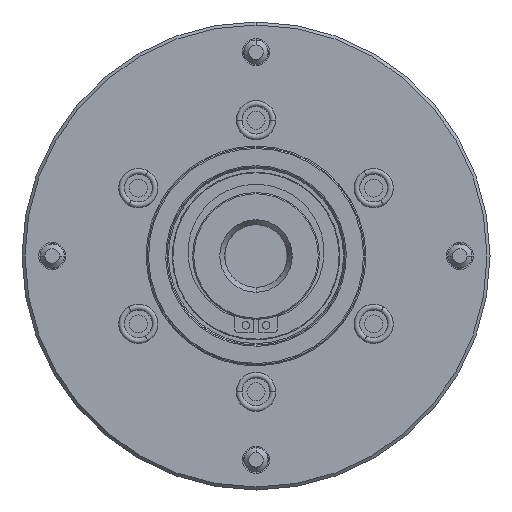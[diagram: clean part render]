
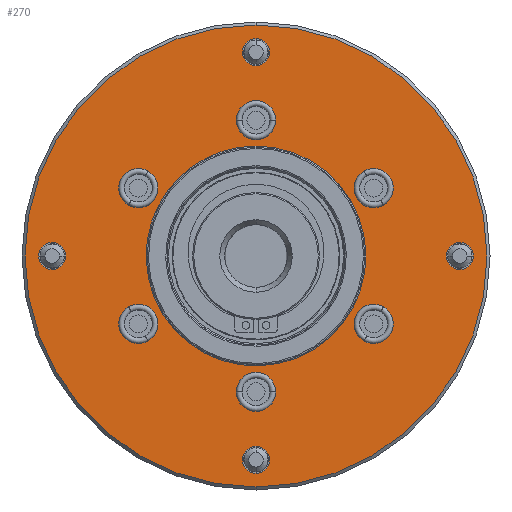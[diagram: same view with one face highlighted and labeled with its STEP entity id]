
A CAD part, front view. The second image highlights one B-rep face of the part: STEP entity #270.
In plain terms, the highlighted planar face has unit normal (0, -1, 0).
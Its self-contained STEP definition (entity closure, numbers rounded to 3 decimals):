
#16=CARTESIAN_POINT('',(0.0,2.5,36.4));
#17=VERTEX_POINT('',#16);
#18=CARTESIAN_POINT('',(34.618,2.5,-11.248));
#19=VERTEX_POINT('',#18);
#20=CARTESIAN_POINT('',(0.0,2.5,0.0));
#21=DIRECTION('',(0.0,1.0,0.0));
#22=DIRECTION('',(0.0,0.0,1.0));
#23=AXIS2_PLACEMENT_3D('',#20,#21,#22);
#24=CIRCLE('',#23,36.4);
#25=EDGE_CURVE('no 733',#17,#19,#24,.T.);
#26=ORIENTED_EDGE('',*,*,#25,.T.);
#27=CARTESIAN_POINT('',(-34.618,2.5,11.248));
#28=VERTEX_POINT('',#27);
#29=CARTESIAN_POINT('',(0.0,2.5,0.0));
#30=DIRECTION('',(0.0,1.0,0.0));
#31=DIRECTION('',(0.0,0.0,1.0));
#32=AXIS2_PLACEMENT_3D('',#29,#30,#31);
#33=CIRCLE('',#32,36.4);
#34=EDGE_CURVE('no 739',#19,#28,#33,.T.);
#35=ORIENTED_EDGE('',*,*,#34,.T.);
#36=CARTESIAN_POINT('',(0.0,2.5,0.0));
#37=DIRECTION('',(0.0,1.0,0.0));
#38=DIRECTION('',(0.0,0.0,1.0));
#39=AXIS2_PLACEMENT_3D('',#36,#37,#38);
#40=CIRCLE('',#39,36.4);
#41=EDGE_CURVE('no 743',#28,#17,#40,.T.);
#42=ORIENTED_EDGE('',*,*,#41,.T.);
#43=EDGE_LOOP('',(#26,#35,#42));
#44=FACE_BOUND('',#43,.T.);
#45=CARTESIAN_POINT('',(0.0,2.5,76.5));
#46=VERTEX_POINT('',#45);
#47=CARTESIAN_POINT('',(0.0,2.5,-76.5));
#48=VERTEX_POINT('',#47);
#49=CARTESIAN_POINT('',(0.0,2.5,0.0));
#50=DIRECTION('',(0.0,-1.0,0.0));
#51=DIRECTION('',(0.0,0.0,1.0));
#52=AXIS2_PLACEMENT_3D('',#49,#50,#51);
#53=CIRCLE('',#52,76.5);
#54=EDGE_CURVE('no 752',#46,#48,#53,.T.);
#55=ORIENTED_EDGE('',*,*,#54,.T.);
#56=CARTESIAN_POINT('',(0.0,2.5,0.0));
#57=DIRECTION('',(0.0,-1.0,0.0));
#58=DIRECTION('',(0.0,0.0,1.0));
#59=AXIS2_PLACEMENT_3D('',#56,#57,#58);
#60=CIRCLE('',#59,76.5);
#61=EDGE_CURVE('no 756',#48,#46,#60,.T.);
#62=ORIENTED_EDGE('',*,*,#61,.T.);
#63=EDGE_LOOP('',(#55,#62));
#64=FACE_OUTER_BOUND('',#63,.T.);
#65=CARTESIAN_POINT('',(38.971,2.5,-16.0));
#66=VERTEX_POINT('',#65);
#67=CARTESIAN_POINT('',(38.971,2.5,-29.0));
#68=VERTEX_POINT('',#67);
#69=CARTESIAN_POINT('',(38.971,2.5,-22.5));
#70=DIRECTION('',(0.0,-1.0,0.0));
#71=DIRECTION('',(0.0,0.0,-1.0));
#72=AXIS2_PLACEMENT_3D('',#69,#70,#71);
#73=CIRCLE('',#72,6.5);
#74=EDGE_CURVE('no 765',#66,#68,#73,.T.);
#75=ORIENTED_EDGE('',*,*,#74,.F.);
#76=CARTESIAN_POINT('',(38.971,2.5,-22.5));
#77=DIRECTION('',(0.0,-1.0,0.0));
#78=DIRECTION('',(0.0,0.0,-1.0));
#79=AXIS2_PLACEMENT_3D('',#76,#77,#78);
#80=CIRCLE('',#79,6.5);
#81=EDGE_CURVE('no 769',#68,#66,#80,.T.);
#82=ORIENTED_EDGE('',*,*,#81,.F.);
#83=EDGE_LOOP('',(#75,#82));
#84=FACE_BOUND('',#83,.T.);
#85=CARTESIAN_POINT('',(-38.971,2.5,-16.0));
#86=VERTEX_POINT('',#85);
#87=CARTESIAN_POINT('',(-38.971,2.5,-29.0));
#88=VERTEX_POINT('',#87);
#89=CARTESIAN_POINT('',(-38.971,2.5,-22.5));
#90=DIRECTION('',(0.0,-1.0,0.0));
#91=DIRECTION('',(0.0,0.0,-1.0));
#92=AXIS2_PLACEMENT_3D('',#89,#90,#91);
#93=CIRCLE('',#92,6.5);
#94=EDGE_CURVE('no 778',#86,#88,#93,.T.);
#95=ORIENTED_EDGE('',*,*,#94,.F.);
#96=CARTESIAN_POINT('',(-38.971,2.5,-22.5));
#97=DIRECTION('',(0.0,-1.0,0.0));
#98=DIRECTION('',(0.0,0.0,-1.0));
#99=AXIS2_PLACEMENT_3D('',#96,#97,#98);
#100=CIRCLE('',#99,6.5);
#101=EDGE_CURVE('no 782',#88,#86,#100,.T.);
#102=ORIENTED_EDGE('',*,*,#101,.F.);
#103=EDGE_LOOP('',(#95,#102));
#104=FACE_BOUND('',#103,.T.);
#105=CARTESIAN_POINT('',(-38.971,2.5,29.0));
#106=VERTEX_POINT('',#105);
#107=CARTESIAN_POINT('',(-38.971,2.5,16.0));
#108=VERTEX_POINT('',#107);
#109=CARTESIAN_POINT('',(-38.971,2.5,22.5));
#110=DIRECTION('',(0.0,-1.0,0.0));
#111=DIRECTION('',(0.0,0.0,-1.0));
#112=AXIS2_PLACEMENT_3D('',#109,#110,#111);
#113=CIRCLE('',#112,6.5);
#114=EDGE_CURVE('no 791',#106,#108,#113,.T.);
#115=ORIENTED_EDGE('',*,*,#114,.F.);
#116=CARTESIAN_POINT('',(-38.971,2.5,22.5));
#117=DIRECTION('',(0.0,-1.0,0.0));
#118=DIRECTION('',(0.0,0.0,-1.0));
#119=AXIS2_PLACEMENT_3D('',#116,#117,#118);
#120=CIRCLE('',#119,6.5);
#121=EDGE_CURVE('no 795',#108,#106,#120,.T.);
#122=ORIENTED_EDGE('',*,*,#121,.F.);
#123=EDGE_LOOP('',(#115,#122));
#124=FACE_BOUND('',#123,.T.);
#125=CARTESIAN_POINT('',(-0.0,2.5,51.5));
#126=VERTEX_POINT('',#125);
#127=CARTESIAN_POINT('',(0.0,2.5,38.5));
#128=VERTEX_POINT('',#127);
#129=CARTESIAN_POINT('',(0.0,2.5,45.0));
#130=DIRECTION('',(0.0,-1.0,0.0));
#131=DIRECTION('',(0.0,0.0,-1.0));
#132=AXIS2_PLACEMENT_3D('',#129,#130,#131);
#133=CIRCLE('',#132,6.5);
#134=EDGE_CURVE('no 804',#126,#128,#133,.T.);
#135=ORIENTED_EDGE('',*,*,#134,.F.);
#136=CARTESIAN_POINT('',(0.0,2.5,45.0));
#137=DIRECTION('',(0.0,-1.0,0.0));
#138=DIRECTION('',(0.0,0.0,-1.0));
#139=AXIS2_PLACEMENT_3D('',#136,#137,#138);
#140=CIRCLE('',#139,6.5);
#141=EDGE_CURVE('no 808',#128,#126,#140,.T.);
#142=ORIENTED_EDGE('',*,*,#141,.F.);
#143=EDGE_LOOP('',(#135,#142));
#144=FACE_BOUND('',#143,.T.);
#145=CARTESIAN_POINT('',(67.5,2.5,4.5));
#146=VERTEX_POINT('',#145);
#147=CARTESIAN_POINT('',(67.5,2.5,-4.5));
#148=VERTEX_POINT('',#147);
#149=CARTESIAN_POINT('',(67.5,2.5,0.0));
#150=DIRECTION('',(0.0,-1.0,0.0));
#151=DIRECTION('',(0.0,0.0,-1.0));
#152=AXIS2_PLACEMENT_3D('',#149,#150,#151);
#153=CIRCLE('',#152,4.5);
#154=EDGE_CURVE('no 817',#146,#148,#153,.T.);
#155=ORIENTED_EDGE('',*,*,#154,.F.);
#156=CARTESIAN_POINT('',(67.5,2.5,0.0));
#157=DIRECTION('',(0.0,-1.0,0.0));
#158=DIRECTION('',(0.0,0.0,-1.0));
#159=AXIS2_PLACEMENT_3D('',#156,#157,#158);
#160=CIRCLE('',#159,4.5);
#161=EDGE_CURVE('no 821',#148,#146,#160,.T.);
#162=ORIENTED_EDGE('',*,*,#161,.F.);
#163=EDGE_LOOP('',(#155,#162));
#164=FACE_BOUND('',#163,.T.);
#165=CARTESIAN_POINT('',(-67.5,2.5,4.5));
#166=VERTEX_POINT('',#165);
#167=CARTESIAN_POINT('',(-67.5,2.5,-4.5));
#168=VERTEX_POINT('',#167);
#169=CARTESIAN_POINT('',(-67.5,2.5,0.0));
#170=DIRECTION('',(0.0,-1.0,0.0));
#171=DIRECTION('',(0.0,0.0,-1.0));
#172=AXIS2_PLACEMENT_3D('',#169,#170,#171);
#173=CIRCLE('',#172,4.5);
#174=EDGE_CURVE('no 830',#166,#168,#173,.T.);
#175=ORIENTED_EDGE('',*,*,#174,.F.);
#176=CARTESIAN_POINT('',(-67.5,2.5,0.0));
#177=DIRECTION('',(0.0,-1.0,0.0));
#178=DIRECTION('',(0.0,0.0,-1.0));
#179=AXIS2_PLACEMENT_3D('',#176,#177,#178);
#180=CIRCLE('',#179,4.5);
#181=EDGE_CURVE('no 834',#168,#166,#180,.T.);
#182=ORIENTED_EDGE('',*,*,#181,.F.);
#183=EDGE_LOOP('',(#175,#182));
#184=FACE_BOUND('',#183,.T.);
#185=CARTESIAN_POINT('',(0.0,2.5,72.0));
#186=VERTEX_POINT('',#185);
#187=CARTESIAN_POINT('',(0.0,2.5,63.0));
#188=VERTEX_POINT('',#187);
#189=CARTESIAN_POINT('',(0.0,2.5,67.5));
#190=DIRECTION('',(0.0,-1.0,0.0));
#191=DIRECTION('',(0.0,0.0,-1.0));
#192=AXIS2_PLACEMENT_3D('',#189,#190,#191);
#193=CIRCLE('',#192,4.5);
#194=EDGE_CURVE('no 843',#186,#188,#193,.T.);
#195=ORIENTED_EDGE('',*,*,#194,.F.);
#196=CARTESIAN_POINT('',(0.0,2.5,67.5));
#197=DIRECTION('',(0.0,-1.0,0.0));
#198=DIRECTION('',(0.0,0.0,-1.0));
#199=AXIS2_PLACEMENT_3D('',#196,#197,#198);
#200=CIRCLE('',#199,4.5);
#201=EDGE_CURVE('no 847',#188,#186,#200,.T.);
#202=ORIENTED_EDGE('',*,*,#201,.F.);
#203=EDGE_LOOP('',(#195,#202));
#204=FACE_BOUND('',#203,.T.);
#205=CARTESIAN_POINT('',(0.0,2.5,-63.0));
#206=VERTEX_POINT('',#205);
#207=CARTESIAN_POINT('',(0.0,2.5,-72.0));
#208=VERTEX_POINT('',#207);
#209=CARTESIAN_POINT('',(0.0,2.5,-67.5));
#210=DIRECTION('',(0.0,-1.0,0.0));
#211=DIRECTION('',(0.0,0.0,-1.0));
#212=AXIS2_PLACEMENT_3D('',#209,#210,#211);
#213=CIRCLE('',#212,4.5);
#214=EDGE_CURVE('no 856',#206,#208,#213,.T.);
#215=ORIENTED_EDGE('',*,*,#214,.F.);
#216=CARTESIAN_POINT('',(0.0,2.5,-67.5));
#217=DIRECTION('',(0.0,-1.0,0.0));
#218=DIRECTION('',(0.0,0.0,-1.0));
#219=AXIS2_PLACEMENT_3D('',#216,#217,#218);
#220=CIRCLE('',#219,4.5);
#221=EDGE_CURVE('no 860',#208,#206,#220,.T.);
#222=ORIENTED_EDGE('',*,*,#221,.F.);
#223=EDGE_LOOP('',(#215,#222));
#224=FACE_BOUND('',#223,.T.);
#225=CARTESIAN_POINT('',(-0.0,2.5,-38.5));
#226=VERTEX_POINT('',#225);
#227=CARTESIAN_POINT('',(0.0,2.5,-51.5));
#228=VERTEX_POINT('',#227);
#229=CARTESIAN_POINT('',(0.0,2.5,-45.0));
#230=DIRECTION('',(0.0,-1.0,0.0));
#231=DIRECTION('',(0.0,0.0,-1.0));
#232=AXIS2_PLACEMENT_3D('',#229,#230,#231);
#233=CIRCLE('',#232,6.5);
#234=EDGE_CURVE('no 869',#226,#228,#233,.T.);
#235=ORIENTED_EDGE('',*,*,#234,.F.);
#236=CARTESIAN_POINT('',(0.0,2.5,-45.0));
#237=DIRECTION('',(0.0,-1.0,0.0));
#238=DIRECTION('',(0.0,0.0,-1.0));
#239=AXIS2_PLACEMENT_3D('',#236,#237,#238);
#240=CIRCLE('',#239,6.5);
#241=EDGE_CURVE('no 873',#228,#226,#240,.T.);
#242=ORIENTED_EDGE('',*,*,#241,.F.);
#243=EDGE_LOOP('',(#235,#242));
#244=FACE_BOUND('',#243,.T.);
#245=CARTESIAN_POINT('',(38.971,2.5,29.0));
#246=VERTEX_POINT('',#245);
#247=CARTESIAN_POINT('',(38.971,2.5,16.0));
#248=VERTEX_POINT('',#247);
#249=CARTESIAN_POINT('',(38.971,2.5,22.5));
#250=DIRECTION('',(0.0,-1.0,0.0));
#251=DIRECTION('',(0.0,0.0,-1.0));
#252=AXIS2_PLACEMENT_3D('',#249,#250,#251);
#253=CIRCLE('',#252,6.5);
#254=EDGE_CURVE('no 882',#246,#248,#253,.T.);
#255=ORIENTED_EDGE('',*,*,#254,.F.);
#256=CARTESIAN_POINT('',(38.971,2.5,22.5));
#257=DIRECTION('',(0.0,-1.0,0.0));
#258=DIRECTION('',(0.0,0.0,-1.0));
#259=AXIS2_PLACEMENT_3D('',#256,#257,#258);
#260=CIRCLE('',#259,6.5);
#261=EDGE_CURVE('no 886',#248,#246,#260,.T.);
#262=ORIENTED_EDGE('',*,*,#261,.F.);
#263=EDGE_LOOP('',(#255,#262));
#264=FACE_BOUND('',#263,.T.);
#265=CARTESIAN_POINT('',(-36.0,2.5,0.0));
#266=DIRECTION('',(0.0,1.0,0.0));
#267=DIRECTION('',(0.0,0.0,1.0));
#268=AXIS2_PLACEMENT_3D('',#265,#266,#267);
#269=PLANE('',#268);
#270=ADVANCED_FACE('no 724',(#44,#64,#84,#104,#124,#144,#164,#184,#204,#224,
    #244,#264),#269,.F.);
